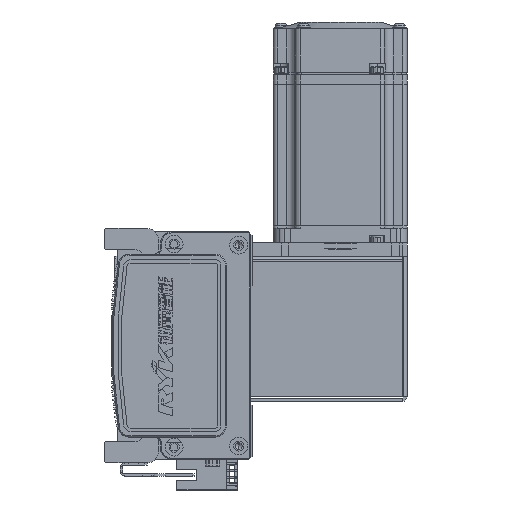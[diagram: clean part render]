
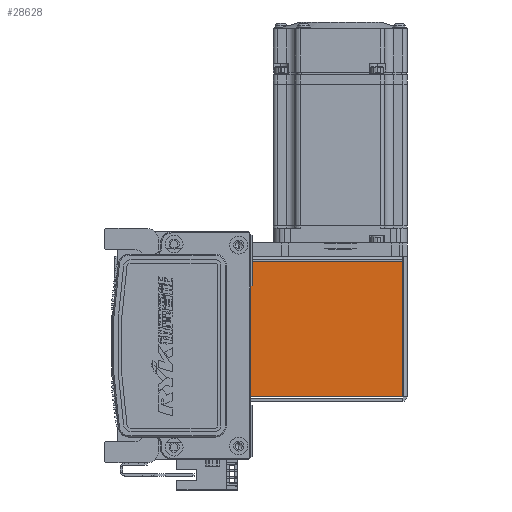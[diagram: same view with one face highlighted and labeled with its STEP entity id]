
A CAD part, left-side view. The second image highlights one B-rep face of the part: STEP entity #28628.
In plain terms, the highlighted planar face has unit normal (-1, 0, 0) as drawn and (0, 0, 1) by its records, which use the part's own axes.
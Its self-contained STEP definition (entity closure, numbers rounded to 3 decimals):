
#218 = EDGE_CURVE ( 'NONE', #22225, #32391, #37603, .T. ) ;
#3562 = CARTESIAN_POINT ( 'NONE',  ( -30.293, 72.5, 35. ) ) ;
#3963 = DIRECTION ( 'NONE',  ( -1., 0., 0. ) ) ;
#6192 = CARTESIAN_POINT ( 'NONE',  ( 30.263, 0.737, 35. ) ) ;
#9081 = CARTESIAN_POINT ( 'NONE',  ( 0., 0., 35. ) ) ;
#10575 = VECTOR ( 'NONE', #11477, 1000. ) ;
#11353 = ORIENTED_EDGE ( 'NONE', *, *, #218, .F. ) ;
#11477 = DIRECTION ( 'NONE',  ( 0., 1., 0. ) ) ;
#11937 = CARTESIAN_POINT ( 'NONE',  ( -30.293, 0., 35. ) ) ;
#11947 = CARTESIAN_POINT ( 'NONE',  ( 30.263, 0.737, 35. ) ) ;
#14011 = LINE ( 'NONE', #6192, #10575 ) ;
#14420 = EDGE_CURVE ( 'NONE', #22225, #52828, #14011, .T. ) ;
#14824 = PLANE ( 'NONE',  #32196 ) ;
#15349 = ORIENTED_EDGE ( 'NONE', *, *, #39744, .T. ) ;
#15982 = CARTESIAN_POINT ( 'NONE',  ( 0., 72.5, 35. ) ) ;
#22225 = VERTEX_POINT ( 'NONE', #11947 ) ;
#22993 = DIRECTION ( 'NONE',  ( 0., 1., 0. ) ) ;
#22994 = VECTOR ( 'NONE', #3963, 1000. ) ;
#24544 = VECTOR ( 'NONE', #71053, 1000. ) ;
#25383 = LINE ( 'NONE', #15982, #24544 ) ;
#26362 = DIRECTION ( 'NONE',  ( -1., 0., 0. ) ) ;
#28205 = ORIENTED_EDGE ( 'NONE', *, *, #14420, .T. ) ;
#28628 = ADVANCED_FACE ( 'NONE', ( #45192 ), #14824, .F. ) ;
#29118 = EDGE_LOOP ( 'NONE', ( #28205, #15349, #64871, #11353 ) ) ;
#32196 = AXIS2_PLACEMENT_3D ( 'NONE', #9081, #70390, #26362 ) ;
#32391 = VERTEX_POINT ( 'NONE', #41812 ) ;
#37603 = LINE ( 'NONE', #42433, #22994 ) ;
#38371 = EDGE_CURVE ( 'NONE', #32391, #51038, #58942, .T. ) ;
#39744 = EDGE_CURVE ( 'NONE', #52828, #51038, #25383, .T. ) ;
#41812 = CARTESIAN_POINT ( 'NONE',  ( -30.293, 0.737, 35. ) ) ;
#42433 = CARTESIAN_POINT ( 'NONE',  ( -32.5, 0.737, 35. ) ) ;
#45192 = FACE_OUTER_BOUND ( 'NONE', #29118, .T. ) ;
#51038 = VERTEX_POINT ( 'NONE', #3562 ) ;
#51868 = CARTESIAN_POINT ( 'NONE',  ( 30.263, 72.5, 35. ) ) ;
#52828 = VERTEX_POINT ( 'NONE', #51868 ) ;
#58942 = LINE ( 'NONE', #11937, #64113 ) ;
#64113 = VECTOR ( 'NONE', #22993, 1000. ) ;
#64871 = ORIENTED_EDGE ( 'NONE', *, *, #38371, .F. ) ;
#70390 = DIRECTION ( 'NONE',  ( 0., 0., -1. ) ) ;
#71053 = DIRECTION ( 'NONE',  ( -1., 0., 0. ) ) ;
